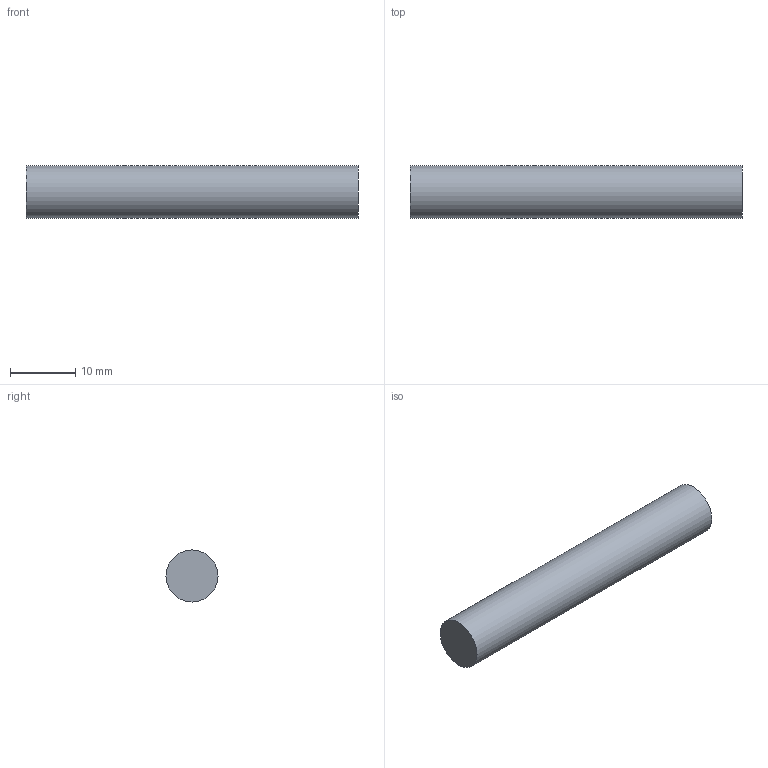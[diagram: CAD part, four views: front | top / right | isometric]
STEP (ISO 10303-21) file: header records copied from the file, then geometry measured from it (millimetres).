
FILE_DESCRIPTION(('Open CASCADE Model'),'2;1');
FILE_NAME('Open CASCADE Shape Model','2026-09-19T23:42:05',('Author'),( 'Open CASCADE'),'Open CASCADE STEP processor 7.9','Open CASCADE 7.9' ,'Unknown');
FILE_SCHEMA(('AUTOMOTIVE_DESIGN { 1 0 10303 214 1 1 1 1 }'));
Length unit declared in the file: millimetre
Products named in the file (1): Open CASCADE STEP translator 7.9 3
Bounding box: 51 x 8 x 8 mm (x, y, z)
Volume: 2563.5 mm3; surface area: 1382.3 mm2
Topology: 1 solids, 1 shells, 3 faces, 3 edges, 2 vertices
Faces by surface type: plane 2, cylinder 1
Full cylindrical faces by diameter (mm): 8 x1
Entity records: 108 total; most frequent: DIRECTION 19, CARTESIAN_POINT 15, AXIS2_PLACEMENT_3D 6, ORIENTED_EDGE 6, PCURVE 6, DEFINITIONAL_REPRESENTATION 6, LINE 5, VECTOR 5
